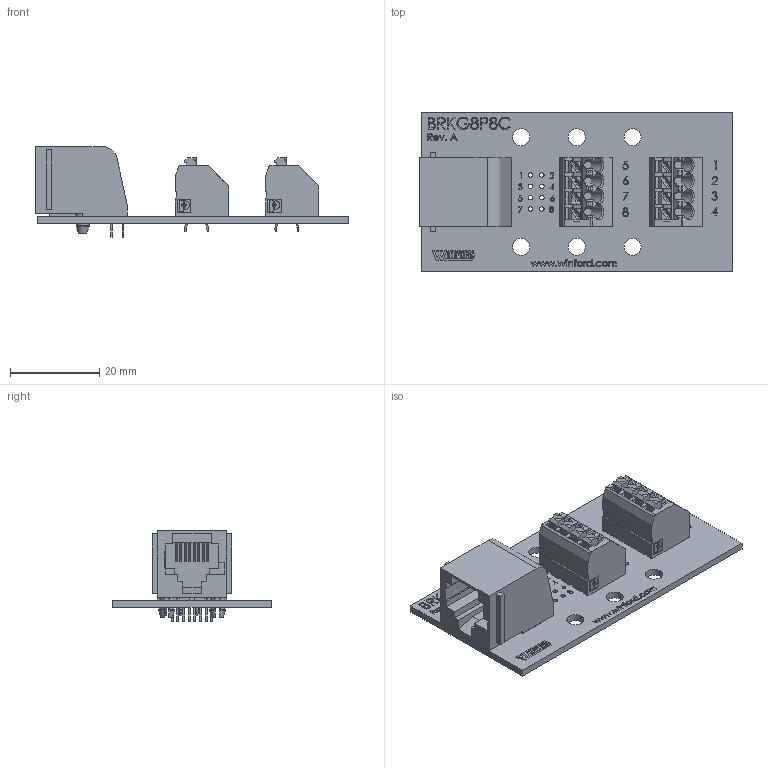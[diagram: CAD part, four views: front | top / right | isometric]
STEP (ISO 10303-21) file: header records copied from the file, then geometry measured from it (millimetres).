
FILE_DESCRIPTION (( 'STEP AP214' ), '1' );
FILE_NAME ('brkg8p8c-r-n_rev_a.step', '2017-11-06T04:22:26', ( '' ), ( '' ), 'SwSTEP 2.0', 'SolidWorks 2017', '' );
FILE_SCHEMA (( 'AUTOMOTIVE_DESIGN' ));
Length unit declared in the file: inch
Products named in the file (4): brkg8p8c-r-n_rev_a; BRKG8P8C Board; Spring Terminal 4 Position; Modular Jack Right Angle 8
Assembly tree (4 placements, depth 2):
  brkg8p8c-r-n_rev_a
    BRKG8P8C Board
    Modular Jack Right Angle 8
    Spring Terminal 4 Position  x2
Bounding box: 70.23 x 35.56 x 20.32 mm (x, y, z)
Volume: 10500.8 mm3; surface area: 10727.6 mm2
Topology: 4 solids, 4 shells, 1694 faces, 4574 edges, 3020 vertices
Faces by surface type: plane 1127, bspline 272, cylinder 237, cone 58
Full cylindrical faces by diameter (mm): 0.457 x2, 0.76 x7, 1 x8, 1.016 x8, 1.04 x8, 1.041 x8, 1.14 x8, 1.38 x2, 1.4 x2, 1.47 x2, 3 x8, 3.81 x6
Entity records: 70032 total; most frequent: CARTESIAN_POINT 23716, ORIENTED_EDGE 6978, DIRECTION 5273, EDGE_CURVE 3489, LINE 2545, VECTOR 2545, VERTEX_POINT 2347, EDGE_LOOP 1578
